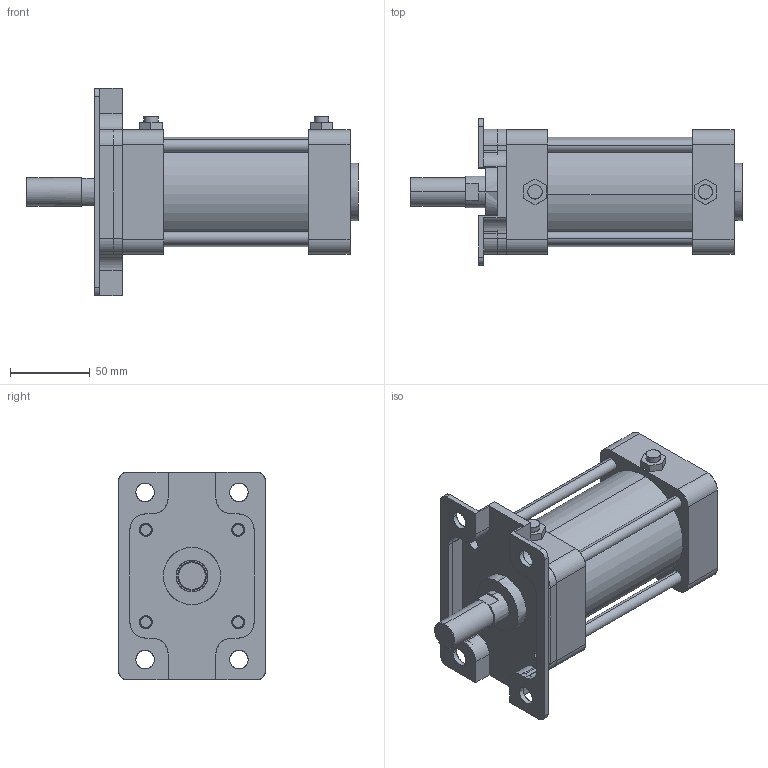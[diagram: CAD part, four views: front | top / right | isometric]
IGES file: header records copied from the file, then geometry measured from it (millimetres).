
Start section: SolidWorks IGES file using analytic representation for surfaces
Global section: file name: C:\Users\Toshiba\Desktop\KG2-63-50-A.IGS; native system: SolidWorks 2014; preprocessor: SolidWorks 2014; author: Toshiba; date: 160401.161421; units: millimetre
Bounding box: 208.5 x 92 x 130 mm (x, y, z)
Surface area: 151697.8 mm2 (no closed solid volume)
Topology: 0 solids, 0 shells, 383 faces, 6182 edges, 6178 vertices
Faces by surface type: bspline 199, revolution 184
